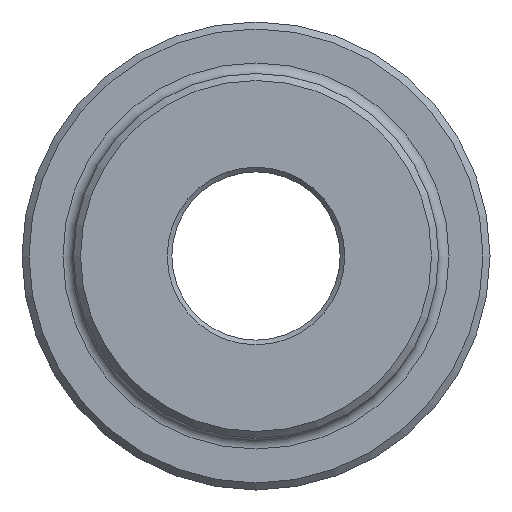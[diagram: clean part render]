
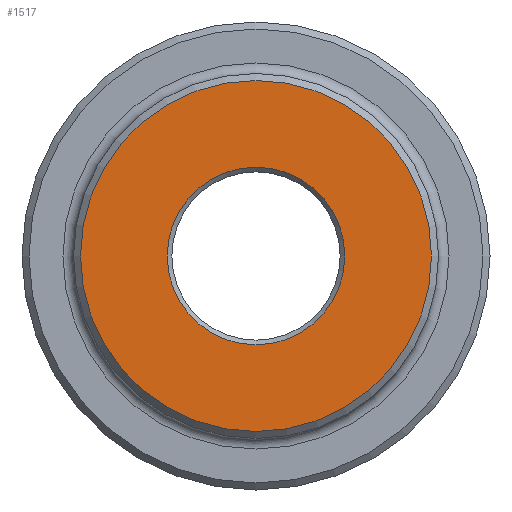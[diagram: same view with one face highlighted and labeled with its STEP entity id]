
A CAD part, left-side view. The second image highlights one B-rep face of the part: STEP entity #1517.
In plain terms, the highlighted planar face has unit normal (-1, 0, 0).
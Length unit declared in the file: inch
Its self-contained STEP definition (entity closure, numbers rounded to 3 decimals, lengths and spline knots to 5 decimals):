
#1 = DIRECTION ( 'NONE',  ( 1., 0., 0. ) ) ;
#38 = FACE_OUTER_BOUND ( 'NONE', #1467, .T. ) ;
#43 = DIRECTION ( 'NONE',  ( 0., 0., -1. ) ) ;
#145 = ORIENTED_EDGE ( 'NONE', *, *, #480, .T. ) ;
#200 = CARTESIAN_POINT ( 'NONE',  ( 0., 0., 0. ) ) ;
#434 = CARTESIAN_POINT ( 'NONE',  ( 0., 0., -0.759 ) ) ;
#480 = EDGE_CURVE ( 'NONE', #1053, #1053, #1288, .T. ) ;
#550 = DIRECTION ( 'NONE',  ( 0., 0., -1. ) ) ;
#582 = PLANE ( 'NONE',  #766 ) ;
#630 = CARTESIAN_POINT ( 'NONE',  ( 0., 0., -1.5 ) ) ;
#766 = AXIS2_PLACEMENT_3D ( 'NONE', #200, #1649, #43 ) ;
#813 = FACE_BOUND ( 'NONE', #992, .T. ) ;
#992 = EDGE_LOOP ( 'NONE', ( #1552 ) ) ;
#1005 = CARTESIAN_POINT ( 'NONE',  ( 0., 0., 0. ) ) ;
#1053 = VERTEX_POINT ( 'NONE', #630 ) ;
#1173 = CIRCLE ( 'NONE', #1627, 0.759 ) ;
#1288 = CIRCLE ( 'NONE', #1733, 1.5 ) ;
#1334 = CARTESIAN_POINT ( 'NONE',  ( 0., 0., 0. ) ) ;
#1396 = DIRECTION ( 'NONE',  ( -1., 0., 0. ) ) ;
#1467 = EDGE_LOOP ( 'NONE', ( #145 ) ) ;
#1517 = ADVANCED_FACE ( 'NONE', ( #813, #38 ), #582, .F. ) ;
#1543 = VERTEX_POINT ( 'NONE', #434 ) ;
#1552 = ORIENTED_EDGE ( 'NONE', *, *, #1801, .T. ) ;
#1627 = AXIS2_PLACEMENT_3D ( 'NONE', #1005, #1, #1716 ) ;
#1649 = DIRECTION ( 'NONE',  ( 1., 0., 0. ) ) ;
#1716 = DIRECTION ( 'NONE',  ( 0., 0., -1. ) ) ;
#1733 = AXIS2_PLACEMENT_3D ( 'NONE', #1334, #1396, #550 ) ;
#1801 = EDGE_CURVE ( 'NONE', #1543, #1543, #1173, .T. ) ;
